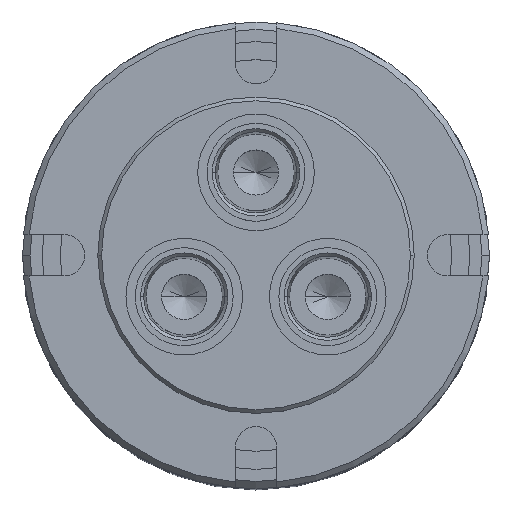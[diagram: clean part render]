
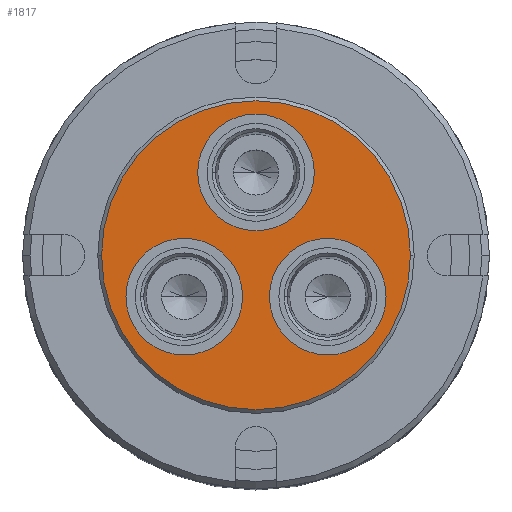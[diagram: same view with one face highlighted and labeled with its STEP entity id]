
A CAD part, top view. The second image highlights one B-rep face of the part: STEP entity #1817.
In plain terms, the highlighted planar face has unit normal (0, 0, 1).
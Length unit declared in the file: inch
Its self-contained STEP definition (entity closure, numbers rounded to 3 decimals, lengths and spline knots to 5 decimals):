
#178 = CARTESIAN_POINT ( 'NONE',  ( 1.07939, -0.34375, 0. ) ) ;
#189 = CARTESIAN_POINT ( 'NONE',  ( 1.2815, 0., 0. ) ) ;
#209 = CARTESIAN_POINT ( 'NONE',  ( -0.11139, -0.34375, 0. ) ) ;
#463 = CARTESIAN_POINT ( 'NONE',  ( 0., 0.6875, 0. ) ) ;
#464 = DIRECTION ( 'NONE',  ( 0., 0., 1. ) ) ;
#465 = DIRECTION ( 'NONE',  ( 1., 0., 0. ) ) ;
#683 = CARTESIAN_POINT ( 'NONE',  ( 0.59539, -0.34375, 0. ) ) ;
#684 = DIRECTION ( 'NONE',  ( 0., 0., 1. ) ) ;
#685 = DIRECTION ( 'NONE',  ( -0.5, -0.866, 0. ) ) ;
#897 = CARTESIAN_POINT ( 'NONE',  ( 0., 0.6875, 0. ) ) ;
#898 = DIRECTION ( 'NONE',  ( 0., 0., 1. ) ) ;
#899 = DIRECTION ( 'NONE',  ( 1., 0., 0. ) ) ;
#1125 = VERTEX_POINT ( 'NONE', #178 ) ;
#1136 = VERTEX_POINT ( 'NONE', #189 ) ;
#1158 = VERTEX_POINT ( 'NONE', #209 ) ;
#1227 = ORIENTED_EDGE ( 'NONE', *, *, #1973, .F. ) ;
#1253 = ORIENTED_EDGE ( 'NONE', *, *, #1879, .T. ) ;
#1266 = ORIENTED_EDGE ( 'NONE', *, *, #1859, .F. ) ;
#1289 = ORIENTED_EDGE ( 'NONE', *, *, #1738, .F. ) ;
#1433 = CIRCLE ( 'NONE', #1479, 0.484 ) ;
#1443 = AXIS2_PLACEMENT_3D ( 'NONE', #683, #684, #685 ) ;
#1479 = AXIS2_PLACEMENT_3D ( 'NONE', #463, #464, #465 ) ;
#1508 = CIRCLE ( 'NONE', #1443, 0.484 ) ;
#1515 = CIRCLE ( 'NONE', #1580, 0.484 ) ;
#1580 = AXIS2_PLACEMENT_3D ( 'NONE', #897, #898, #899 ) ;
#1685 = EDGE_CURVE ( 'NONE', #4816, #4878, #1433, .T. ) ;
#1738 = EDGE_CURVE ( 'NONE', #1125, #4828, #1508, .T. ) ;
#1766 = EDGE_CURVE ( 'NONE', #4878, #4816, #1515, .T. ) ;
#1817 = ADVANCED_FACE ( 'NONE', ( #4726, #4727, #4724, #4725 ), #4728, .F. ) ;
#1859 = EDGE_CURVE ( 'NONE', #4886, #1158, #2231, .T. ) ;
#1879 = EDGE_CURVE ( 'NONE', #1136, #5068, #2259, .T. ) ;
#1954 = EDGE_CURVE ( 'NONE', #5068, #1136, #5914, .T. ) ;
#1973 = EDGE_CURVE ( 'NONE', #4828, #1125, #5968, .T. ) ;
#1999 = EDGE_CURVE ( 'NONE', #1158, #4886, #6300, .T. ) ;
#2231 = CIRCLE ( 'NONE', #2266, 0.484 ) ;
#2259 = CIRCLE ( 'NONE', #2270, 1.2815 ) ;
#2266 = AXIS2_PLACEMENT_3D ( 'NONE', #5149, #5150, #5151 ) ;
#2270 = AXIS2_PLACEMENT_3D ( 'NONE', #5268, #5269, #5270 ) ;
#2308 = AXIS2_PLACEMENT_3D ( 'NONE', #4743, #4744, #4745 ) ;
#2398 = EDGE_LOOP ( 'NONE', ( #2521, #3367 ) ) ;
#2417 = EDGE_LOOP ( 'NONE', ( #2505, #1266 ) ) ;
#2426 = EDGE_LOOP ( 'NONE', ( #3419, #1253 ) ) ;
#2505 = ORIENTED_EDGE ( 'NONE', *, *, #1999, .F. ) ;
#2521 = ORIENTED_EDGE ( 'NONE', *, *, #1685, .F. ) ;
#2975 = CARTESIAN_POINT ( 'NONE',  ( 0.484, 0.6875, 0. ) ) ;
#2981 = CARTESIAN_POINT ( 'NONE',  ( 0.11139, -0.34375, 0. ) ) ;
#3005 = CARTESIAN_POINT ( 'NONE',  ( -0.484, 0.6875, 0. ) ) ;
#3010 = CARTESIAN_POINT ( 'NONE',  ( -1.07939, -0.34375, 0. ) ) ;
#3114 = CARTESIAN_POINT ( 'NONE',  ( -1.2815, 0., 0. ) ) ;
#3159 = EDGE_LOOP ( 'NONE', ( #1289, #1227 ) ) ;
#3367 = ORIENTED_EDGE ( 'NONE', *, *, #1766, .F. ) ;
#3419 = ORIENTED_EDGE ( 'NONE', *, *, #1954, .T. ) ;
#3598 = CARTESIAN_POINT ( 'NONE',  ( -0.59539, -0.34375, 0. ) ) ;
#3599 = DIRECTION ( 'NONE',  ( 0., 0., 1. ) ) ;
#3600 = DIRECTION ( 'NONE',  ( -0.5, 0.866, 0. ) ) ;
#4724 = FACE_OUTER_BOUND ( 'NONE', #2426, .T. ) ;
#4725 = FACE_BOUND ( 'NONE', #2398, .T. ) ;
#4726 = FACE_BOUND ( 'NONE', #2417, .T. ) ;
#4727 = FACE_BOUND ( 'NONE', #3159, .T. ) ;
#4728 = PLANE ( 'NONE',  #2308 ) ;
#4743 = CARTESIAN_POINT ( 'NONE',  ( 0., 0., 0. ) ) ;
#4744 = DIRECTION ( 'NONE',  ( 0., 0., -1. ) ) ;
#4745 = DIRECTION ( 'NONE',  ( -1., 0., 0. ) ) ;
#4816 = VERTEX_POINT ( 'NONE', #2975 ) ;
#4828 = VERTEX_POINT ( 'NONE', #2981 ) ;
#4878 = VERTEX_POINT ( 'NONE', #3005 ) ;
#4886 = VERTEX_POINT ( 'NONE', #3010 ) ;
#5068 = VERTEX_POINT ( 'NONE', #3114 ) ;
#5149 = CARTESIAN_POINT ( 'NONE',  ( -0.59539, -0.34375, 0. ) ) ;
#5150 = DIRECTION ( 'NONE',  ( 0., 0., 1. ) ) ;
#5151 = DIRECTION ( 'NONE',  ( -0.5, 0.866, 0. ) ) ;
#5268 = CARTESIAN_POINT ( 'NONE',  ( 0., 0., 0. ) ) ;
#5269 = DIRECTION ( 'NONE',  ( 0., 0., 1. ) ) ;
#5270 = DIRECTION ( 'NONE',  ( -1., 0., 0. ) ) ;
#5643 = CARTESIAN_POINT ( 'NONE',  ( 0., 0., 0. ) ) ;
#5644 = DIRECTION ( 'NONE',  ( 0., 0., 1. ) ) ;
#5645 = DIRECTION ( 'NONE',  ( -1., 0., 0. ) ) ;
#5785 = CARTESIAN_POINT ( 'NONE',  ( 0.59539, -0.34375, 0. ) ) ;
#5786 = DIRECTION ( 'NONE',  ( 0., 0., 1. ) ) ;
#5787 = DIRECTION ( 'NONE',  ( -0.5, -0.866, 0. ) ) ;
#5914 = CIRCLE ( 'NONE', #6195, 1.2815 ) ;
#5968 = CIRCLE ( 'NONE', #6188, 0.484 ) ;
#6169 = AXIS2_PLACEMENT_3D ( 'NONE', #3598, #3599, #3600 ) ;
#6188 = AXIS2_PLACEMENT_3D ( 'NONE', #5785, #5786, #5787 ) ;
#6195 = AXIS2_PLACEMENT_3D ( 'NONE', #5643, #5644, #5645 ) ;
#6300 = CIRCLE ( 'NONE', #6169, 0.484 ) ;
